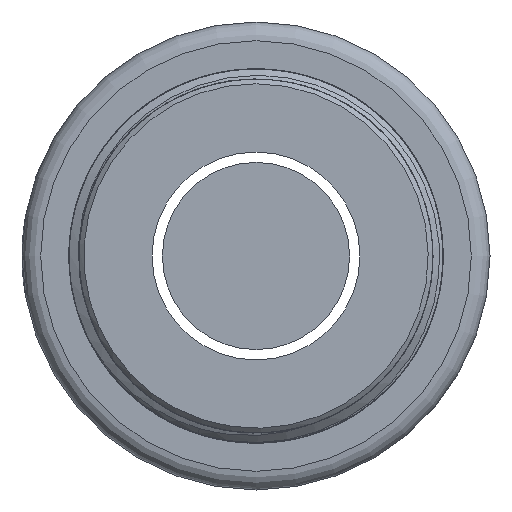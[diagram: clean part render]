
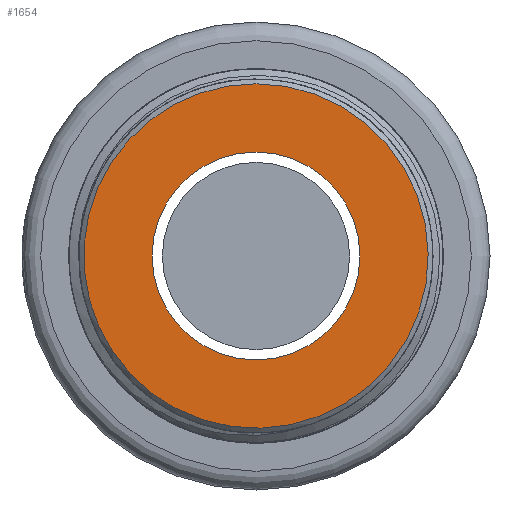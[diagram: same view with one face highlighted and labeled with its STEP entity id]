
A CAD part, left-side view. The second image highlights one B-rep face of the part: STEP entity #1654.
In plain terms, the highlighted planar face has unit normal (-1, 0, 0).
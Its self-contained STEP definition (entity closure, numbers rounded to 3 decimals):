
#1 = CARTESIAN_POINT ( 'NONE',  ( -34., 0., 0. ) ) ;
#2 = CARTESIAN_POINT ( 'NONE',  ( -34., 10., 0. ) ) ;
#12 = CIRCLE ( 'NONE', #1191, 5.55 ) ;
#89 = DIRECTION ( 'NONE',  ( 0., 0., 1. ) ) ;
#255 = AXIS2_PLACEMENT_3D ( 'NONE', #1268, #596, #89 ) ;
#477 = AXIS2_PLACEMENT_3D ( 'NONE', #2, #543, #1247 ) ;
#543 = DIRECTION ( 'NONE',  ( -1., 0., 0. ) ) ;
#596 = DIRECTION ( 'NONE',  ( -1., 0., 0. ) ) ;
#651 = EDGE_LOOP ( 'NONE', ( #1798 ) ) ;
#749 = EDGE_CURVE ( 'NONE', #1509, #1509, #12, .T. ) ;
#857 = PLANE ( 'NONE',  #477 ) ;
#907 = ORIENTED_EDGE ( 'NONE', *, *, #749, .T. ) ;
#1017 = VERTEX_POINT ( 'NONE', #1876 ) ;
#1191 = AXIS2_PLACEMENT_3D ( 'NONE', #1, #2079, #1921 ) ;
#1229 = CIRCLE ( 'NONE', #255, 9.2 ) ;
#1247 = DIRECTION ( 'NONE',  ( 0., 0., 1. ) ) ;
#1268 = CARTESIAN_POINT ( 'NONE',  ( -34., 0., 0. ) ) ;
#1509 = VERTEX_POINT ( 'NONE', #1866 ) ;
#1537 = FACE_OUTER_BOUND ( 'NONE', #651, .T. ) ;
#1576 = FACE_BOUND ( 'NONE', #2166, .T. ) ;
#1654 = ADVANCED_FACE ( 'NONE', ( #1537, #1576 ), #857, .T. ) ;
#1798 = ORIENTED_EDGE ( 'NONE', *, *, #1833, .T. ) ;
#1833 = EDGE_CURVE ( 'NONE', #1017, #1017, #1229, .T. ) ;
#1866 = CARTESIAN_POINT ( 'NONE',  ( -34., 0., -5.55 ) ) ;
#1876 = CARTESIAN_POINT ( 'NONE',  ( -34., 0., 9.2 ) ) ;
#1921 = DIRECTION ( 'NONE',  ( 0., 0., -1. ) ) ;
#2079 = DIRECTION ( 'NONE',  ( 1., 0., 0. ) ) ;
#2166 = EDGE_LOOP ( 'NONE', ( #907 ) ) ;
